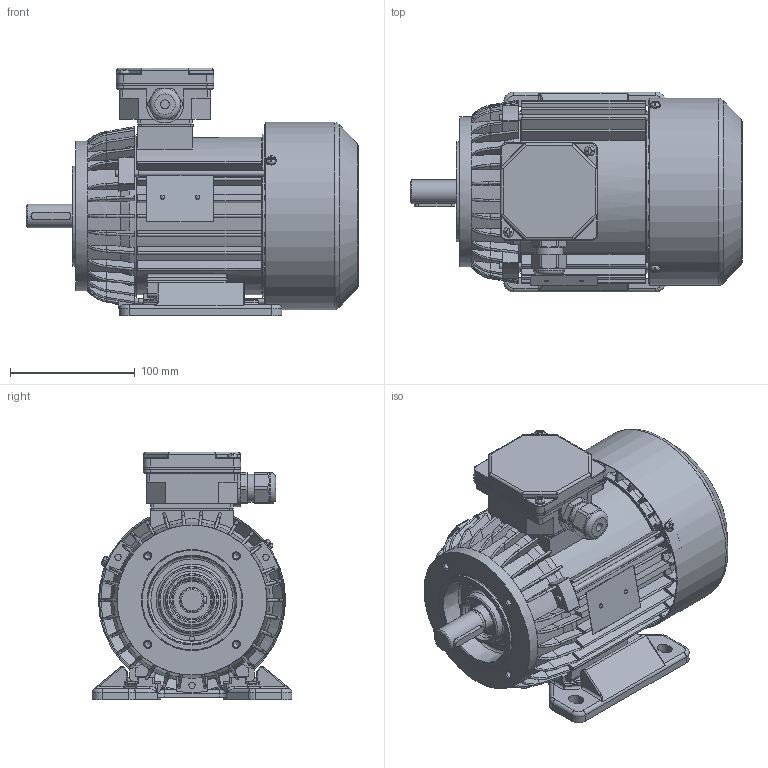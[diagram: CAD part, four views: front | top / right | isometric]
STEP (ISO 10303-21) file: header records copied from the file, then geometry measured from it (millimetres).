
FILE_DESCRIPTION(/* description */ ('Unknown'),/* implementation_level */ '2;1');
FILE_NAME(/* name */ '2SIEL80-4A2',/* time_stamp */ '2021-04-12T14:55:42+02:00',/* author */ ('Unknown'),/* organization */ ('Unknown'),/* preprocessor_version */ 'ST-DEVELOPER v16.7',/* originating_system */ 'Solid Edge',/* authorisation */ 'Unknown');
FILE_SCHEMA (('AUTOMOTIVE_DESIGN {1 0 10303 214 3 1 1}'));
Products named in the file (1): 2SIEL80-4A2
Bounding box: 265.79 x 160 x 198.5 mm (x, y, z)
Volume: 954212.7 mm3; surface area: 517373.7 mm2
Topology: 3 solids, 3 shells, 2729 faces, 7850 edges, 5058 vertices
Faces by surface type: plane 1300, cylinder 862, bspline 292, torus 149, cone 108, sphere 18
Full cylindrical faces by diameter (mm): 2 x2, 2.4 x2, 3 x1, 3.7 x8, 4 x4, 4.5 x1, 4.6 x3, 4.8 x2, 5 x12, 5.5 x3, 6.5 x4, 7 x1, 8 x9, 18.598 x1, 18.998 x1, 19.298 x1, 19.498 x1, 20.298 x2, 20.398 x2, 20.4 x2, 22.3 x1, 25 x1, 25.497 x1, 25.647 x1, 25.997 x3, 26.047 x1, 28.799 x4, 30 x1, 34 x1, 38.198 x4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
Entity records: 112630 total; most frequent: CARTESIAN_POINT 26687, ORIENTED_EDGE 14816, DIRECTION 13392, EDGE_CURVE 7408, VERTEX_POINT 4898, AXIS2_PLACEMENT_3D 4830, LINE 3732, VECTOR 3732
